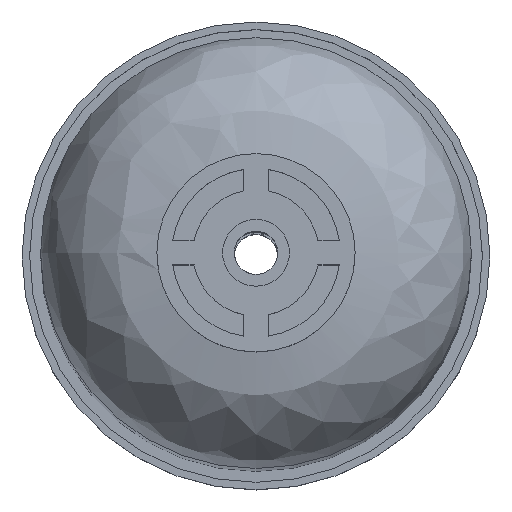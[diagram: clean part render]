
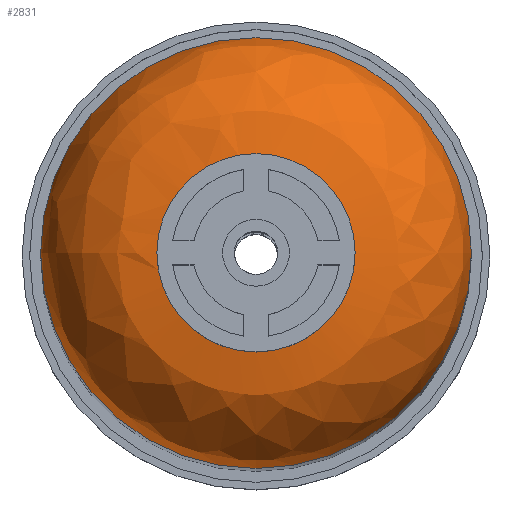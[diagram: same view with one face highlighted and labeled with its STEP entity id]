
A CAD part, top view. The second image highlights one B-rep face of the part: STEP entity #2831.
In plain terms, the highlighted free-form (B-spline) face has degree [2, 2] with [3, 9] control points.
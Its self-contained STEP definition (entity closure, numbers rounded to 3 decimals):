
#682=FACE_OUTER_BOUND('',#852,.T.);
#852=EDGE_LOOP('',(#1853,#1854,#1855,#1856,#1857,#1858));
#1048=CIRCLE('',#3052,14.961);
#1049=CIRCLE('',#3053,17.551);
#1050=CIRCLE('',#3054,32.512);
#1051=CIRCLE('',#3055,32.512);
#1052=CIRCLE('',#3056,14.961);
#1195=VERTEX_POINT('',#4342);
#1196=VERTEX_POINT('',#4343);
#1197=VERTEX_POINT('',#4345);
#1198=VERTEX_POINT('',#4347);
#1452=EDGE_CURVE('',#1195,#1196,#1048,.T.);
#1453=EDGE_CURVE('',#1196,#1197,#1049,.T.);
#1454=EDGE_CURVE('',#1198,#1197,#1050,.T.);
#1455=EDGE_CURVE('',#1197,#1198,#1051,.T.);
#1456=EDGE_CURVE('',#1196,#1195,#1052,.T.);
#1853=ORIENTED_EDGE('',*,*,#1452,.T.);
#1854=ORIENTED_EDGE('',*,*,#1453,.T.);
#1855=ORIENTED_EDGE('',*,*,#1454,.F.);
#1856=ORIENTED_EDGE('',*,*,#1455,.F.);
#1857=ORIENTED_EDGE('',*,*,#1453,.F.);
#1858=ORIENTED_EDGE('',*,*,#1456,.T.);
#2655=(
BOUNDED_SURFACE()
B_SPLINE_SURFACE(2,2,((#4315,#4316,#4317,#4318,#4319,#4320,#4321,#4322,
#4323),(#4324,#4325,#4326,#4327,#4328,#4329,#4330,#4331,#4332),(#4333,#4334,
#4335,#4336,#4337,#4338,#4339,#4340,#4341)),.UNSPECIFIED.,.F.,.T.,.F.)
B_SPLINE_SURFACE_WITH_KNOTS((3,3),(3,2,2,2,3),(0.,1.571),
(-3.142,-1.571,0.,1.571,3.142),
 .UNSPECIFIED.)
GEOMETRIC_REPRESENTATION_ITEM()
RATIONAL_B_SPLINE_SURFACE(((1.,0.707,1.,0.707,1.,
0.707,1.,0.707,1.),(0.707,0.5,
0.707,0.5,0.707,0.5,
0.707,0.5,0.707),(1.,0.707,
1.,0.707,1.,0.707,1.,0.707,1.)))
REPRESENTATION_ITEM('')
SURFACE()
);
#2831=ADVANCED_FACE('',(#682),#2655,.F.);
#3052=AXIS2_PLACEMENT_3D('',#4344,#3410,#3411);
#3053=AXIS2_PLACEMENT_3D('',#4346,#3412,#3413);
#3054=AXIS2_PLACEMENT_3D('',#4348,#3414,#3415);
#3055=AXIS2_PLACEMENT_3D('',#4349,#3416,#3417);
#3056=AXIS2_PLACEMENT_3D('',#4350,#3418,#3419);
#3410=DIRECTION('center_axis',(0.,0.,-1.));
#3411=DIRECTION('ref_axis',(1.,0.,0.));
#3412=DIRECTION('center_axis',(0.,-1.,0.));
#3413=DIRECTION('ref_axis',(-1.,0.,0.));
#3414=DIRECTION('center_axis',(0.,0.,-1.));
#3415=DIRECTION('ref_axis',(-1.,0.,0.));
#3416=DIRECTION('center_axis',(0.,0.,-1.));
#3417=DIRECTION('ref_axis',(-1.,0.,0.));
#3418=DIRECTION('center_axis',(0.,0.,-1.));
#3419=DIRECTION('ref_axis',(1.,0.,0.));
#4315=CARTESIAN_POINT('Ctrl Pts',(-32.512,0.,-25.984));
#4316=CARTESIAN_POINT('Ctrl Pts',(-32.512,-32.512,-25.984));
#4317=CARTESIAN_POINT('Ctrl Pts',(0.,-32.512,-25.984));
#4318=CARTESIAN_POINT('Ctrl Pts',(32.512,-32.512,-25.984));
#4319=CARTESIAN_POINT('Ctrl Pts',(32.512,0.,-25.984));
#4320=CARTESIAN_POINT('Ctrl Pts',(32.512,32.512,-25.984));
#4321=CARTESIAN_POINT('Ctrl Pts',(0.,32.512,-25.984));
#4322=CARTESIAN_POINT('Ctrl Pts',(-32.512,32.512,-25.984));
#4323=CARTESIAN_POINT('Ctrl Pts',(-32.512,0.,-25.984));
#4324=CARTESIAN_POINT('Ctrl Pts',(-32.512,0.,
-8.433));
#4325=CARTESIAN_POINT('Ctrl Pts',(-32.512,-32.512,-8.433));
#4326=CARTESIAN_POINT('Ctrl Pts',(0.,-32.512,
-8.433));
#4327=CARTESIAN_POINT('Ctrl Pts',(32.512,-32.512,-8.433));
#4328=CARTESIAN_POINT('Ctrl Pts',(32.512,0.,
-8.433));
#4329=CARTESIAN_POINT('Ctrl Pts',(32.512,32.512,-8.433));
#4330=CARTESIAN_POINT('Ctrl Pts',(0.,32.512,
-8.433));
#4331=CARTESIAN_POINT('Ctrl Pts',(-32.512,32.512,-8.433));
#4332=CARTESIAN_POINT('Ctrl Pts',(-32.512,0.,
-8.433));
#4333=CARTESIAN_POINT('Ctrl Pts',(-14.961,0.,
-8.433));
#4334=CARTESIAN_POINT('Ctrl Pts',(-14.961,-14.961,-8.433));
#4335=CARTESIAN_POINT('Ctrl Pts',(0.,-14.961,-8.433));
#4336=CARTESIAN_POINT('Ctrl Pts',(14.961,-14.961,-8.433));
#4337=CARTESIAN_POINT('Ctrl Pts',(14.961,0.,
-8.433));
#4338=CARTESIAN_POINT('Ctrl Pts',(14.961,14.961,-8.433));
#4339=CARTESIAN_POINT('Ctrl Pts',(0.,14.961,
-8.433));
#4340=CARTESIAN_POINT('Ctrl Pts',(-14.961,14.961,-8.433));
#4341=CARTESIAN_POINT('Ctrl Pts',(-14.961,0.,
-8.433));
#4342=CARTESIAN_POINT('',(14.961,0.,-8.433));
#4343=CARTESIAN_POINT('',(-14.961,0.,-8.433));
#4344=CARTESIAN_POINT('Origin',(0.,0.,-8.433));
#4345=CARTESIAN_POINT('',(-32.512,0.,-25.984));
#4346=CARTESIAN_POINT('Origin',(-14.961,0.,-25.984));
#4347=CARTESIAN_POINT('',(32.512,0.,-25.984));
#4348=CARTESIAN_POINT('Origin',(0.,0.,-25.984));
#4349=CARTESIAN_POINT('Origin',(0.,0.,-25.984));
#4350=CARTESIAN_POINT('Origin',(0.,0.,-8.433));
